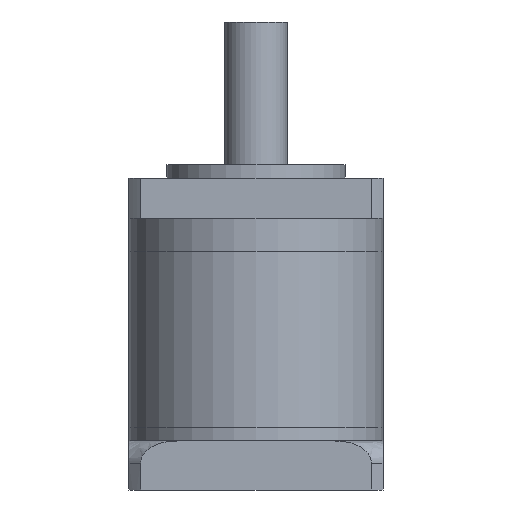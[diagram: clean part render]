
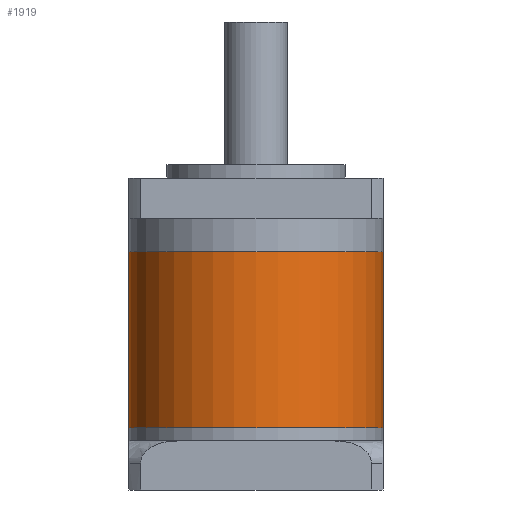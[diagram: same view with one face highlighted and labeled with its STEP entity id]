
A CAD part, front view. The second image highlights one B-rep face of the part: STEP entity #1919.
In plain terms, the highlighted cylindrical face has radius 28.5 mm (diameter 57 mm), a partial arc.
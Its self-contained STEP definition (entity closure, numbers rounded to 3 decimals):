
#169 = VERTEX_POINT ( 'NONE', #1440 ) ;
#265 = DIRECTION ( 'NONE',  ( 0., 0., 1. ) ) ;
#299 = CARTESIAN_POINT ( 'NONE',  ( 28.5, 0., 14. ) ) ;
#455 = CARTESIAN_POINT ( 'NONE',  ( 28.5, 0., 53.5 ) ) ;
#627 = VERTEX_POINT ( 'NONE', #3689 ) ;
#777 = LINE ( 'NONE', #817, #1780 ) ;
#817 = CARTESIAN_POINT ( 'NONE',  ( -28.5, 0., 53.5 ) ) ;
#1109 = DIRECTION ( 'NONE',  ( 0., 0., -1. ) ) ;
#1317 = VECTOR ( 'NONE', #2136, 1000. ) ;
#1440 = CARTESIAN_POINT ( 'NONE',  ( 28.5, 0., 53.5 ) ) ;
#1586 = EDGE_CURVE ( 'NONE', #627, #1632, #2411, .T. ) ;
#1632 = VERTEX_POINT ( 'NONE', #299 ) ;
#1780 = VECTOR ( 'NONE', #2987, 1000. ) ;
#1919 = ADVANCED_FACE ( 'NONE', ( #4367 ), #5316, .T. ) ;
#2136 = DIRECTION ( 'NONE',  ( 0., 0., -1. ) ) ;
#2172 = DIRECTION ( 'NONE',  ( -1., 0., 0. ) ) ;
#2411 = CIRCLE ( 'NONE', #5046, 28.5 ) ;
#2951 = CARTESIAN_POINT ( 'NONE',  ( 0., 0., 14. ) ) ;
#2987 = DIRECTION ( 'NONE',  ( 0., 0., -1. ) ) ;
#3269 = DIRECTION ( 'NONE',  ( 0., 0., 1. ) ) ;
#3324 = AXIS2_PLACEMENT_3D ( 'NONE', #3818, #1109, #2172 ) ;
#3465 = VERTEX_POINT ( 'NONE', #5842 ) ;
#3689 = CARTESIAN_POINT ( 'NONE',  ( -28.5, 0., 14. ) ) ;
#3818 = CARTESIAN_POINT ( 'NONE',  ( 0., 0., 53.5 ) ) ;
#3936 = AXIS2_PLACEMENT_3D ( 'NONE', #6492, #3269, #5474 ) ;
#4254 = LINE ( 'NONE', #455, #1317 ) ;
#4367 = FACE_OUTER_BOUND ( 'NONE', #4450, .T. ) ;
#4449 = ORIENTED_EDGE ( 'NONE', *, *, #4726, .F. ) ;
#4450 = EDGE_LOOP ( 'NONE', ( #4460, #4449, #5864, #5167 ) ) ;
#4460 = ORIENTED_EDGE ( 'NONE', *, *, #6886, .F. ) ;
#4726 = EDGE_CURVE ( 'NONE', #3465, #169, #4968, .T. ) ;
#4968 = CIRCLE ( 'NONE', #3936, 28.5 ) ;
#5046 = AXIS2_PLACEMENT_3D ( 'NONE', #2951, #265, #5793 ) ;
#5167 = ORIENTED_EDGE ( 'NONE', *, *, #1586, .T. ) ;
#5316 = CYLINDRICAL_SURFACE ( 'NONE', #3324, 28.5 ) ;
#5474 = DIRECTION ( 'NONE',  ( 1., 0., 0. ) ) ;
#5793 = DIRECTION ( 'NONE',  ( 1., 0., 0. ) ) ;
#5842 = CARTESIAN_POINT ( 'NONE',  ( -28.5, 0., 53.5 ) ) ;
#5864 = ORIENTED_EDGE ( 'NONE', *, *, #6756, .T. ) ;
#6492 = CARTESIAN_POINT ( 'NONE',  ( 0., 0., 53.5 ) ) ;
#6756 = EDGE_CURVE ( 'NONE', #3465, #627, #777, .T. ) ;
#6886 = EDGE_CURVE ( 'NONE', #169, #1632, #4254, .T. ) ;
